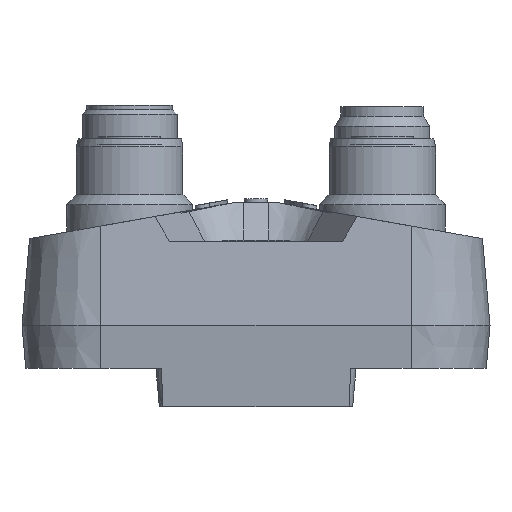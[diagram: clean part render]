
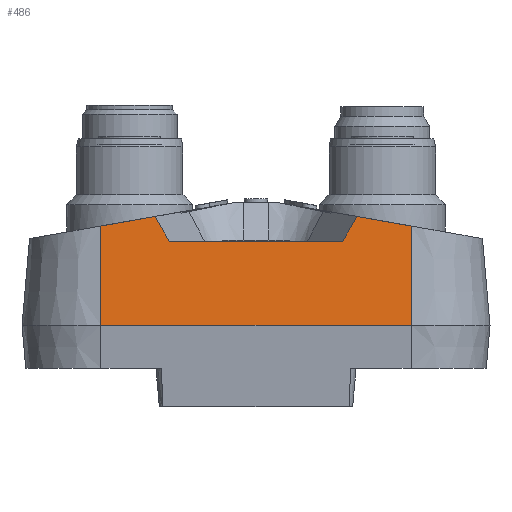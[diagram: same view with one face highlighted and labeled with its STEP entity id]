
A CAD part, front view. The second image highlights one B-rep face of the part: STEP entity #486.
In plain terms, the highlighted planar face has unit normal (0, -0.996, 0.087).
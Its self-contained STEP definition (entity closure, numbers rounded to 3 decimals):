
#486 = ADVANCED_FACE( '', ( #1485 ), #1486, .T. );
#1485 = FACE_OUTER_BOUND( '', #2495, .T. );
#1486 = PLANE( '', #2496 );
#2495 = EDGE_LOOP( '', ( #5462, #5463, #5464, #5465, #5466, #5467, #5468, #5469 ) );
#2496 = AXIS2_PLACEMENT_3D( '', #5470, #5471, #5472 );
#5462 = ORIENTED_EDGE( '', *, *, #5949, .F. );
#5463 = ORIENTED_EDGE( '', *, *, #6424, .F. );
#5464 = ORIENTED_EDGE( '', *, *, #6402, .T. );
#5465 = ORIENTED_EDGE( '', *, *, #5587, .T. );
#5466 = ORIENTED_EDGE( '', *, *, #6399, .F. );
#5467 = ORIENTED_EDGE( '', *, *, #6423, .F. );
#5468 = ORIENTED_EDGE( '', *, *, #5954, .F. );
#5469 = ORIENTED_EDGE( '', *, *, #5943, .F. );
#5470 = CARTESIAN_POINT( '', ( -19.65, 0., 0. ) );
#5471 = DIRECTION( '', ( 0., -0.996, 0.087 ) );
#5472 = DIRECTION( '', ( 0., -0.087, -0.996 ) );
#5587 = EDGE_CURVE( '', #6489, #6496, #6498, .T. );
#5943 = EDGE_CURVE( '', #7130, #7131, #7132, .F. );
#5949 = EDGE_CURVE( '', #7142, #7130, #7143, .F. );
#5954 = EDGE_CURVE( '', #7131, #7151, #7152, .F. );
#6399 = EDGE_CURVE( '', #7890, #6496, #7892, .T. );
#6402 = EDGE_CURVE( '', #7894, #6489, #7897, .T. );
#6423 = EDGE_CURVE( '', #7151, #7890, #7924, .F. );
#6424 = EDGE_CURVE( '', #7894, #7142, #7925, .F. );
#6489 = VERTEX_POINT( '', #8017 );
#6496 = VERTEX_POINT( '', #8032 );
#6498 = LINE( '', #8035, #8036 );
#7130 = VERTEX_POINT( '', #8872 );
#7131 = VERTEX_POINT( '', #8873 );
#7132 = LINE( '', #8874, #8875 );
#7142 = VERTEX_POINT( '', #8888 );
#7143 = LINE( '', #8889, #8890 );
#7151 = VERTEX_POINT( '', #8902 );
#7152 = LINE( '', #8903, #8904 );
#7890 = VERTEX_POINT( '', #9836 );
#7892 = LINE( '', #9838, #9839 );
#7894 = VERTEX_POINT( '', #9841 );
#7897 = LINE( '', #9845, #9846 );
#7924 = LINE( '', #9893, #9894 );
#7925 = LINE( '', #9895, #9896 );
#8017 = CARTESIAN_POINT( '', ( -19.65, 0., 0. ) );
#8032 = CARTESIAN_POINT( '', ( 19.65, 0., 0. ) );
#8035 = CARTESIAN_POINT( '', ( -19.65, 0., 0. ) );
#8036 = VECTOR( '', #9965, 1000. );
#8872 = CARTESIAN_POINT( '', ( -10.98, 0.932, 10.65 ) );
#8873 = CARTESIAN_POINT( '', ( 10.98, 0.932, 10.65 ) );
#8874 = CARTESIAN_POINT( '', ( -19.65, 0.932, 10.65 ) );
#8875 = VECTOR( '', #10641, 1000. );
#8888 = CARTESIAN_POINT( '', ( -12.816, 1.205, 13.775 ) );
#8889 = CARTESIAN_POINT( '', ( -8.531, 0.567, 6.481 ) );
#8890 = VECTOR( '', #10651, 1000. );
#8902 = CARTESIAN_POINT( '', ( 12.816, 1.205, 13.775 ) );
#8903 = CARTESIAN_POINT( '', ( -1.492, -0.926, -10.584 ) );
#8904 = VECTOR( '', #10656, 1000. );
#9836 = CARTESIAN_POINT( '', ( 19.65, 1.1, 12.57 ) );
#9838 = CARTESIAN_POINT( '', ( 19.65, 0., 0. ) );
#9839 = VECTOR( '', #11601, 1000. );
#9841 = CARTESIAN_POINT( '', ( -19.65, 1.1, 12.57 ) );
#9845 = CARTESIAN_POINT( '', ( -19.65, 0., 0. ) );
#9846 = VECTOR( '', #11606, 1000. );
#9893 = CARTESIAN_POINT( '', ( -16.291, 1.654, 18.907 ) );
#9894 = VECTOR( '', #11627, 1000. );
#9895 = CARTESIAN_POINT( '', ( -21.816, 1.066, 12.188 ) );
#9896 = VECTOR( '', #11628, 1000. );
#9965 = DIRECTION( '', ( 1., 0., 0. ) );
#10641 = DIRECTION( '', ( -1., 0., 0. ) );
#10651 = DIRECTION( '', ( -0.505, 0.075, 0.86 ) );
#10656 = DIRECTION( '', ( -0.505, -0.075, -0.86 ) );
#11601 = DIRECTION( '', ( 0., -0.087, -0.996 ) );
#11606 = DIRECTION( '', ( 0., -0.087, -0.996 ) );
#11627 = DIRECTION( '', ( -0.985, 0.015, 0.174 ) );
#11628 = DIRECTION( '', ( -0.985, -0.015, -0.174 ) );
